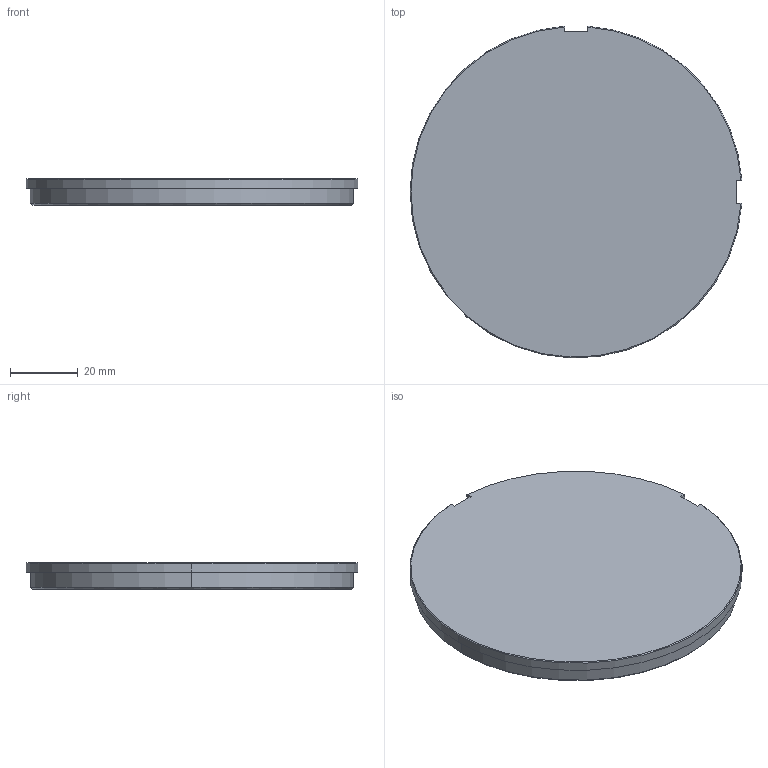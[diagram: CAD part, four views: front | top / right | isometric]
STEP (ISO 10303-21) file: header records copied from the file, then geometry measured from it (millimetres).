
FILE_DESCRIPTION (( 'STEP AP214' ), '1' );
FILE_NAME ('C-1000 SOLID ROTARY INSERT (CATALOG MODEL).STEP', '2026-03-04T20:59:06', ( '' ), ( '' ), 'SwSTEP 2.0', 'SolidWorks 2025', '' );
FILE_SCHEMA (( 'AUTOMOTIVE_DESIGN' ));
Length unit declared in the file: inch
Products named in the file (1): C-1000 SOLID ROTARY INSERT (CATALOG MODEL)
Bounding box: 97.67 x 97.64 x 7.92 mm (x, y, z)
Volume: 57391.7 mm3; surface area: 17238.7 mm2
Topology: 1 solids, 1 shells, 23 faces, 62 edges, 41 vertices
Faces by surface type: plane 12, cylinder 6, cone 5
Entity records: 760 total; most frequent: CARTESIAN_POINT 151, ORIENTED_EDGE 124, DIRECTION 119, EDGE_CURVE 62, VERTEX_POINT 41, AXIS2_PLACEMENT_3D 41, LINE 37, VECTOR 37
